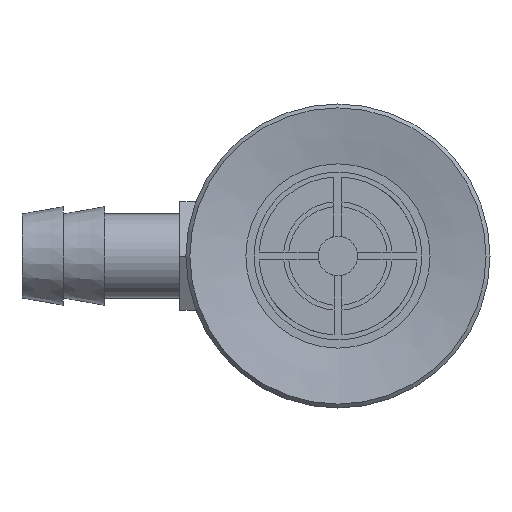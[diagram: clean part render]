
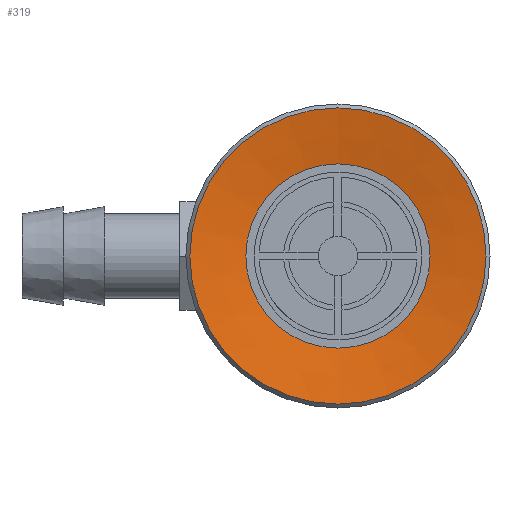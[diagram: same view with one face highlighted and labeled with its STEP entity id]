
A CAD part, front view. The second image highlights one B-rep face of the part: STEP entity #319.
In plain terms, the highlighted conical face has half-angle 80 degrees and reference radius 4.664 mm.
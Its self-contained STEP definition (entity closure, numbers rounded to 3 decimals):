
#319=ADVANCED_FACE('',(#586,#587),#588,.F.);
#586=FACE_BOUND('',#863,.T.);
#587=FACE_OUTER_BOUND('',#864,.T.);
#588=CONICAL_SURFACE('',#865,4.664,1.396);
#863=EDGE_LOOP('',(#1621));
#864=EDGE_LOOP('',(#1622));
#865=AXIS2_PLACEMENT_3D('',#1623,#1624,#1625);
#1621=ORIENTED_EDGE('',*,*,#1866,.F.);
#1622=ORIENTED_EDGE('',*,*,#1801,.T.);
#1623=CARTESIAN_POINT('',(0.0,0.5,0.0));
#1624=DIRECTION('',(-0.0,-1.0,0.));
#1625=DIRECTION('',(0.0,0.,-1.0));
#1801=EDGE_CURVE('',#2128,#2128,#2129,.T.);
#1866=EDGE_CURVE('',#2227,#2227,#2228,.T.);
#2128=VERTEX_POINT('',#2850);
#2129=CIRCLE('',#2851,7.5);
#2227=VERTEX_POINT('',#3025);
#2228=CIRCLE('',#3026,4.664);
#2850=CARTESIAN_POINT('',(0.0,0.,-7.5));
#2851=AXIS2_PLACEMENT_3D('',#3269,#3270,#3271);
#3025=CARTESIAN_POINT('',(0.0,0.5,-4.664));
#3026=AXIS2_PLACEMENT_3D('',#3371,#3372,#3373);
#3269=CARTESIAN_POINT('',(0.0,0.0,0.0));
#3270=DIRECTION('',(0.0,-1.0,0.));
#3271=DIRECTION('',(0.0,0.,-1.0));
#3371=CARTESIAN_POINT('',(0.0,0.5,0.0));
#3372=DIRECTION('',(0.0,-1.0,0.));
#3373=DIRECTION('',(0.0,0.,-1.0));
